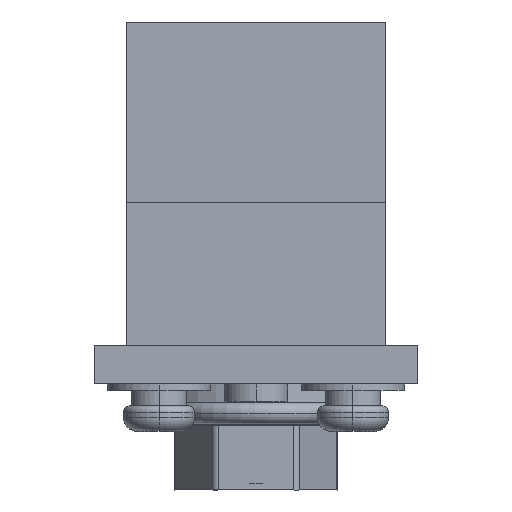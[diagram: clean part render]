
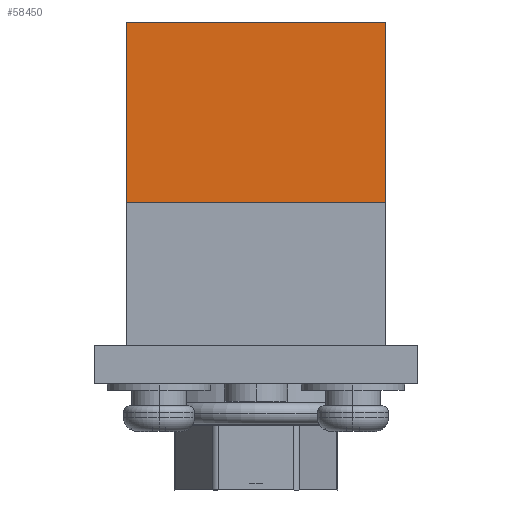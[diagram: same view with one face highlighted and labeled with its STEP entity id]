
A CAD part, left-side view. The second image highlights one B-rep face of the part: STEP entity #58450.
In plain terms, the highlighted planar face has unit normal (-1, 0, 0).
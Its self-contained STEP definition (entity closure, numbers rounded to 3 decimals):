
#56920=CARTESIAN_POINT('',(-27.488,66.46,28.));
#56930=VERTEX_POINT('',#56920);
#56960=CARTESIAN_POINT('',(-27.488,66.46,28.));
#56970=DIRECTION('',(0.,0.,-1.));
#56980=VECTOR('',#56970,1.);
#56990=LINE('',#56960,#56980);
#57000=CARTESIAN_POINT('',(-27.488,66.46,14.));
#57010=VERTEX_POINT('',#57000);
#57020=EDGE_CURVE('',#56930,#57010,#56990,.T.);
#57790=CARTESIAN_POINT('',(-27.488,46.46,28.));
#57800=VERTEX_POINT('',#57790);
#57830=CARTESIAN_POINT('',(-27.488,46.46,28.));
#57840=DIRECTION('',(0.,1.,0.));
#57850=VECTOR('',#57840,1.);
#57860=LINE('',#57830,#57850);
#57870=EDGE_CURVE('',#57800,#56930,#57860,.T.);
#58220=CARTESIAN_POINT('',(-27.488,66.46,28.));
#58230=DIRECTION('',(1.,0.,0.));
#58240=DIRECTION('',(0.,0.,1.));
#58250=AXIS2_PLACEMENT_3D('',#58220,#58230,#58240);
#58260=PLANE('',#58250);
#58270=ORIENTED_EDGE('',*,*,#57020,.T.);
#58280=ORIENTED_EDGE('',*,*,#57870,.T.);
#58290=CARTESIAN_POINT('',(-27.488,46.46,28.));
#58300=DIRECTION('',(0.,0.,-1.));
#58310=VECTOR('',#58300,1.);
#58320=LINE('',#58290,#58310);
#58330=CARTESIAN_POINT('',(-27.488,46.46,14.));
#58340=VERTEX_POINT('',#58330);
#58350=EDGE_CURVE('',#57800,#58340,#58320,.T.);
#58360=ORIENTED_EDGE('',*,*,#58350,.F.);
#58370=CARTESIAN_POINT('',(-27.488,46.46,14.));
#58380=DIRECTION('',(0.,1.,0.));
#58390=VECTOR('',#58380,1.);
#58400=LINE('',#58370,#58390);
#58410=EDGE_CURVE('',#58340,#57010,#58400,.T.);
#58420=ORIENTED_EDGE('',*,*,#58410,.F.);
#58430=EDGE_LOOP('',(#58420,#58360,#58280,#58270));
#58440=FACE_OUTER_BOUND('',#58430,.T.);
#58450=ADVANCED_FACE('',(#58440),#58260,.F.);
